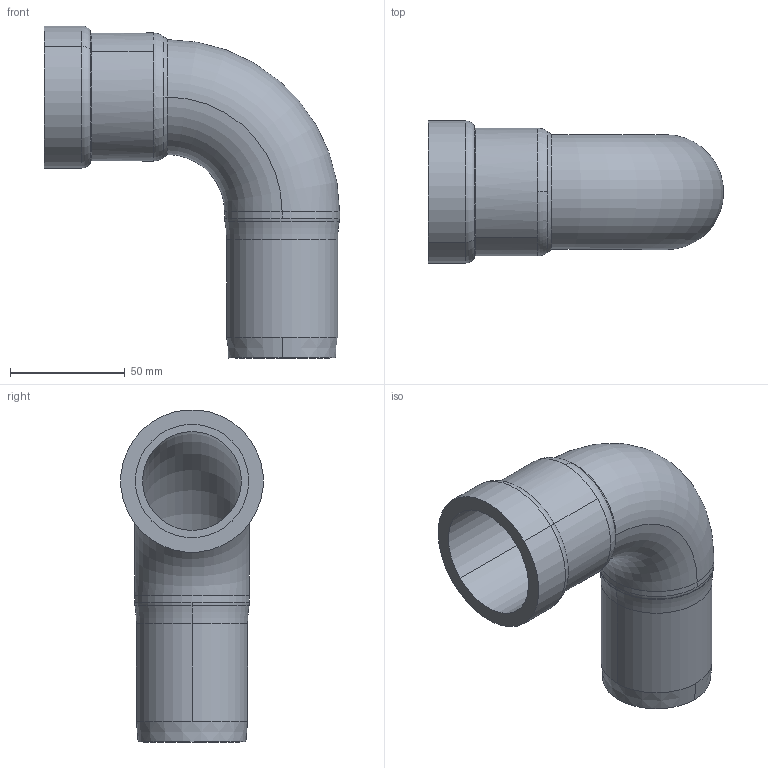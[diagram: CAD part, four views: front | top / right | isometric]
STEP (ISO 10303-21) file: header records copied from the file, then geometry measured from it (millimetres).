
FILE_DESCRIPTION(('Creo Elements/Direct Modeling STEP Export'),'2;1');
FILE_NAME('C9411_1-1-2.stp','2020-06-25T10:52:45',(''),(''),'PTC Creo Elements/Direct Modeling STEP processor for AP214 (Solid Model)','PTC Creo Elements/Direct Modeling 19.0C 15-Aug-2015 (C) Parametric Technology GmbH','');
FILE_SCHEMA(('AUTOMOTIVE_DESIGN { 1 0 10303 214 1 1 1 1 }'));
Length unit declared in the file: millimetre
Products named in the file (2): C9411_1-1-2
Assembly tree (1 placements, depth 2):
  C9411_1-1-2
    C9411_1-1-2
Bounding box: 128.4 x 61.76 x 144.39 mm (x, y, z)
Volume: 112901.5 mm3; surface area: 61080.3 mm2
Topology: 1 solids, 1 shells, 45 faces, 105 edges, 63 vertices
Faces by surface type: torus 16, cylinder 16, cone 10, plane 3
Entity records: 1883 total; most frequent: CARTESIAN_POINT 885, ORIENTED_EDGE 210, DIRECTION 202, EDGE_CURVE 105, AXIS2_PLACEMENT_3D 88, VERTEX_POINT 63, EDGE_LOOP 48, FACE_OUTER_BOUND 45
